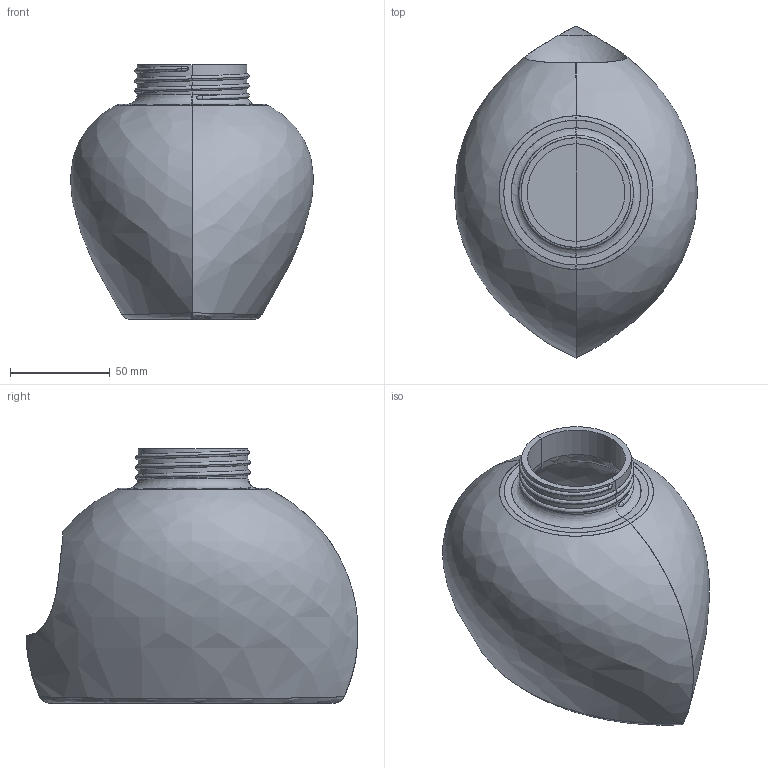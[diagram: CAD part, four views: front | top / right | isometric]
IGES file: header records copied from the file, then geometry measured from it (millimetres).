
Start section: START RECORD GO HERE.
Global section: file name: c1-Duaso_Carbonell_Mariona-solucion-posible.igs; native system: IBM CATIA IGES - CATIA Version 5 Release 19 ; preprocessor: CATIA Version 5 Release 19 ; author: andres.garcia; organization: IQS; date: 20200131.143918; units: millimetre
Bounding box: 122.04 x 166.67 x 128 mm (x, y, z)
Surface area: 116000.4 mm2 (no closed solid volume)
Topology: 0 solids, 0 shells, 54 faces, 252 edges, 248 vertices
Faces by surface type: bspline 32, revolution 16, plane 6
